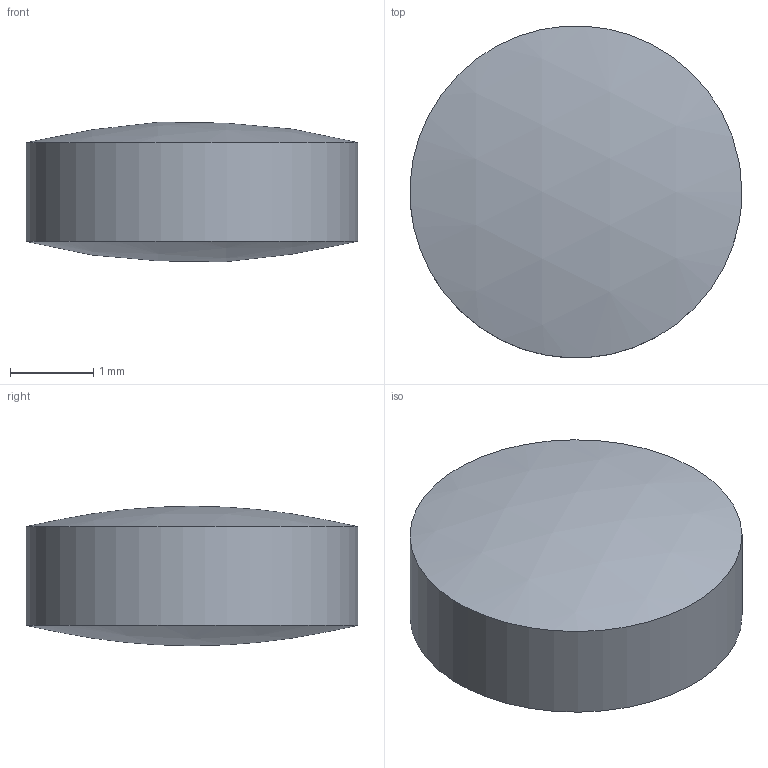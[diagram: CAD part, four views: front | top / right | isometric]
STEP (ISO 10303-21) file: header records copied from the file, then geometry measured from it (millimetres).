
FILE_DESCRIPTION ((), '1');
FILE_NAME ('C:\Users\r.sato\Desktop\', '2016-12-19T19:31:45', ('Unknown'), ('Unknown'), 'HarmonyWare STEP v1.9.13', 'HarmonyWare Translators', '');
FILE_SCHEMA (('CONFIG_CONTROL_DESIGN'));
Length unit declared in the file: millimetre
Products named in the file (1): NONE
Bounding box: 4 x 3.99 x 1.68 mm (x, y, z)
Volume: 18.2 mm3; surface area: 40.5 mm2
Topology: 1 solids, 1 shells, 3 faces, 3 edges, 2 vertices
Faces by surface type: sphere 2, cylinder 1
Full cylindrical faces by diameter (mm): 4 x1
Entity records: 151 total; most frequent: CARTESIAN_POINT 25, PERSON 8, ORGANIZATION 8, PERSON_AND_ORGANIZATION 8, ORIENTED_EDGE 6, DIRECTION 6, PERSON_AND_ORGANIZATION_ROLE 5, CC_DESIGN_PERSON_AND_ORGANIZATION_ASSIGNMENT 5
